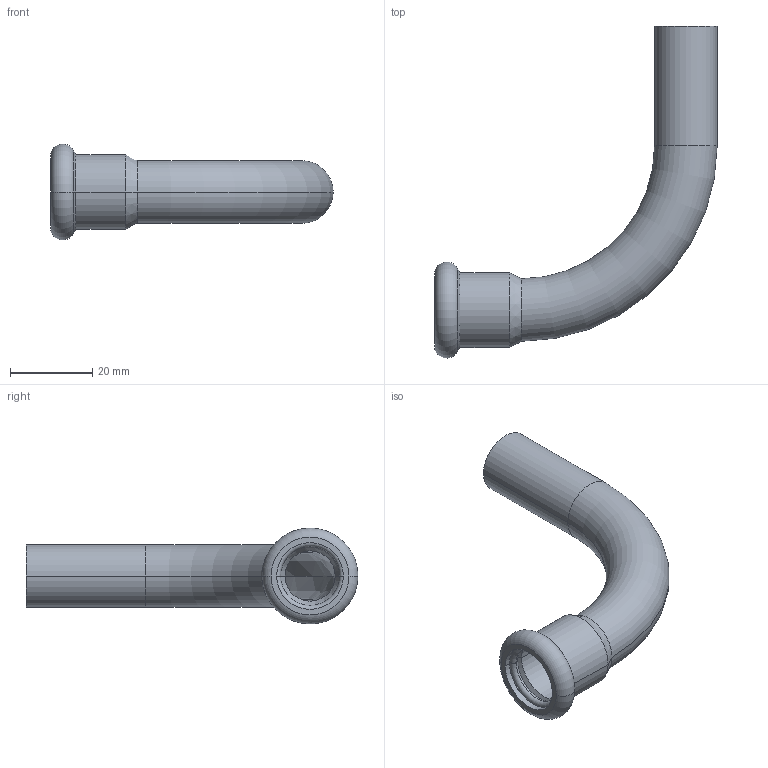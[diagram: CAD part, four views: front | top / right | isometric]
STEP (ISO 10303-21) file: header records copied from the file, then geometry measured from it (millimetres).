
FILE_DESCRIPTION (( 'STEP AP214' ), '1' );
FILE_NAME ('E15000B.STEP', '2025-08-17T07:40:46', ( '' ), ( '' ), 'SwSTEP 2.0', 'SolidWorks 2020', '' );
FILE_SCHEMA (( 'AUTOMOTIVE_DESIGN' ));
Length unit declared in the file: millimetre
Products named in the file (1): E15000B
Bounding box: 68.6 x 80.65 x 23.3 mm (x, y, z)
Volume: 8040.4 mm3; surface area: 10997.8 mm2
Topology: 2 solids, 2 shells, 33 faces, 66 edges, 36 vertices
Faces by surface type: torus 10, cylinder 8, cone 8, bspline 4, plane 3
Entity records: 1834 total; most frequent: CARTESIAN_POINT 754, DIRECTION 162, ORIENTED_EDGE 132, AXIS2_PLACEMENT_3D 72, EDGE_CURVE 66, CIRCLE 42, VERTEX_POINT 36, EDGE_LOOP 36
